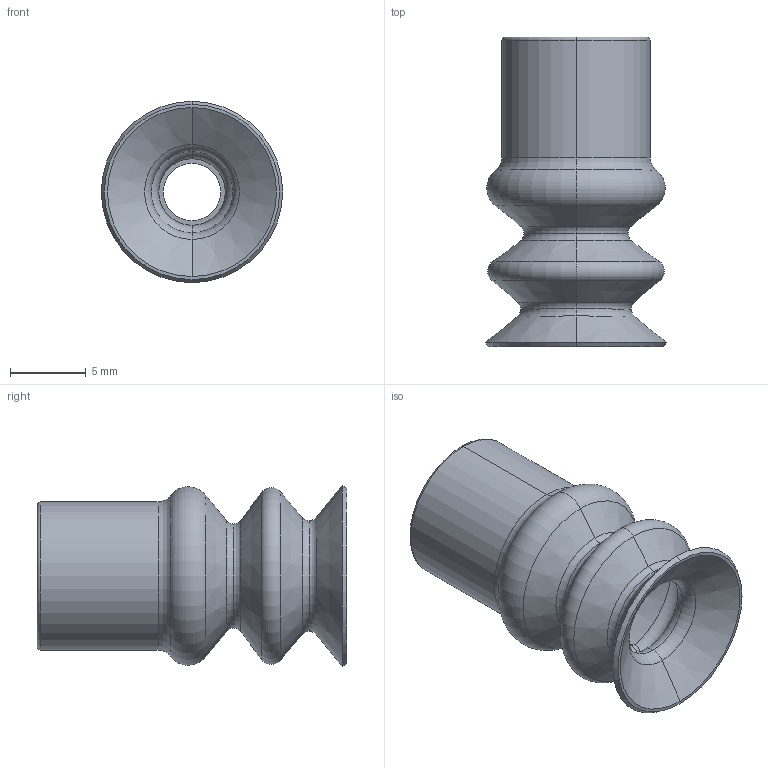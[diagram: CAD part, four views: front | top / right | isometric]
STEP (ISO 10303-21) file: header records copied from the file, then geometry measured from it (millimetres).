
FILE_DESCRIPTION (( 'STEP AP203' ), '1' );
FILE_NAME ('2_12--A.STEP', '2017-04-13T13:58:01', ( '' ), ( '' ), 'SwSTEP 2.0', 'SolidWorks 2016', '' );
FILE_SCHEMA (( 'CONFIG_CONTROL_DESIGN' ));
Length unit declared in the file: millimetre
Products named in the file (1): 2_12--A
Bounding box: 12 x 20.5 x 12 mm (x, y, z)
Volume: 914.6 mm3; surface area: 1407.7 mm2
Topology: 1 solids, 1 shells, 79 faces, 192 edges, 110 vertices
Faces by surface type: torus 32, cone 20, cylinder 14, sphere 8, plane 5
Entity records: 2415 total; most frequent: CARTESIAN_POINT 508, DIRECTION 438, ORIENTED_EDGE 360, AXIS2_PLACEMENT_3D 202, EDGE_CURVE 180, CIRCLE 122, VERTEX_POINT 106, EDGE_LOOP 84
